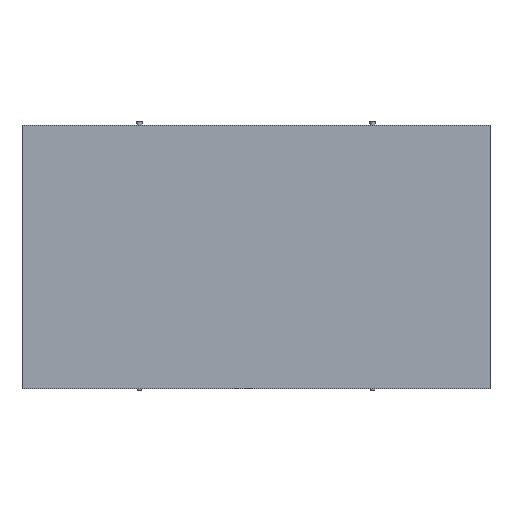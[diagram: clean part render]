
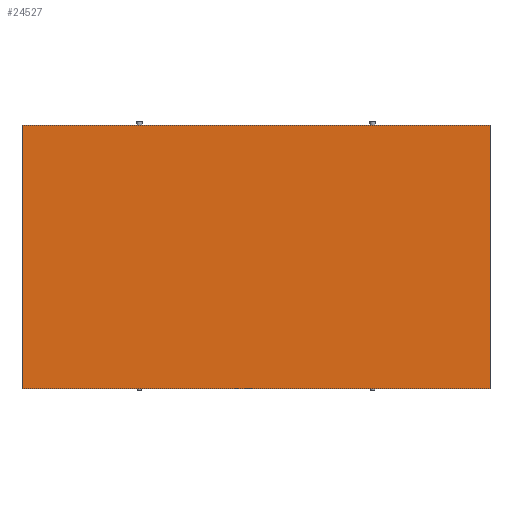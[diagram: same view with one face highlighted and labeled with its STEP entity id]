
A CAD part, top view. The second image highlights one B-rep face of the part: STEP entity #24527.
In plain terms, the highlighted planar face has unit normal (0, 0, 1).
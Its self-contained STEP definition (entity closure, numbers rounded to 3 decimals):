
#24527=ADVANCED_FACE('',(#34363),#26898,.F.);
#26898=PLANE('',#130975);
#34363=FACE_OUTER_BOUND('',#42637,.T.);
#42637=EDGE_LOOP('',(#72982,#72983,#72984,#72985));
#72982=ORIENTED_EDGE('',*,*,#104074,.F.);
#72983=ORIENTED_EDGE('',*,*,#104075,.F.);
#72984=ORIENTED_EDGE('',*,*,#104076,.F.);
#72985=ORIENTED_EDGE('',*,*,#104077,.F.);
#87274=VERTEX_POINT('',#266750);
#87275=VERTEX_POINT('',#266751);
#87276=VERTEX_POINT('',#266753);
#87277=VERTEX_POINT('',#266755);
#104074=EDGE_CURVE('',#87274,#87275,#112735,.T.);
#104075=EDGE_CURVE('',#87276,#87274,#112736,.T.);
#104076=EDGE_CURVE('',#87277,#87276,#112737,.T.);
#104077=EDGE_CURVE('',#87275,#87277,#112738,.T.);
#112735=LINE('',#266749,#120467);
#112736=LINE('',#266752,#120468);
#112737=LINE('',#266754,#120469);
#112738=LINE('',#266756,#120470);
#120467=VECTOR('',#158934,1.);
#120468=VECTOR('',#158935,1.);
#120469=VECTOR('',#158936,1.);
#120470=VECTOR('',#158937,1.);
#130975=AXIS2_PLACEMENT_3D('',#266757,#158938,#158939);
#158934=DIRECTION('',(0.,1.,0.));
#158935=DIRECTION('',(-1.,0.,0.));
#158936=DIRECTION('',(0.,-1.,0.));
#158937=DIRECTION('',(1.,0.,0.));
#158938=DIRECTION('',(0.,0.,-1.));
#158939=DIRECTION('',(-1.,0.,0.));
#266749=CARTESIAN_POINT('',(-304.935,-171.515,9.75));
#266750=CARTESIAN_POINT('',(-304.935,-171.515,9.75));
#266751=CARTESIAN_POINT('',(-304.935,171.515,9.75));
#266752=CARTESIAN_POINT('',(304.935,-171.515,9.75));
#266753=CARTESIAN_POINT('',(304.935,-171.515,9.75));
#266754=CARTESIAN_POINT('',(304.935,171.515,9.75));
#266755=CARTESIAN_POINT('',(304.935,171.515,9.75));
#266756=CARTESIAN_POINT('',(-304.935,171.515,9.75));
#266757=CARTESIAN_POINT('',(0.,0.,9.75));
